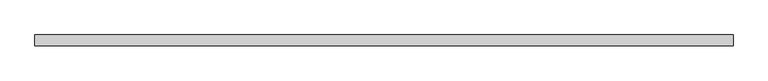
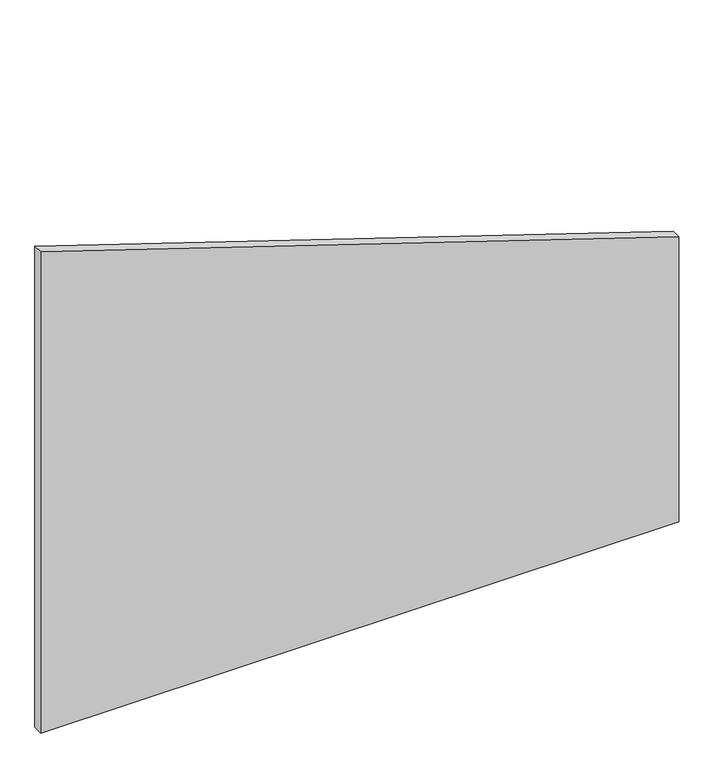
"""IFC4 building model written with IfcOpenShell, lengths in millimetres: plate geometry, Системная панель : ADSK_Cтеклопакет_25 мм."""

from ifc_helpers import new_model, si_unit, frame, origin, place, context, project, spatial, polyline, outline, extrude, source, transform, mapped, element, save


def plate_d46d3da3(model_context):
    return source(origin(), model_context, "Body", "SweptSolid", [
        extrude(outline(polyline([(0.0, -812.4684619), (0.0, 812.4684619), (767.3403965, 812.4684619), (1295.3144081, -812.4684619), (0.0, -812.4684619)])), frame((0.0, -12.5, 0.0), z_axis=(0.0, 1.0, 0.0), x_axis=(0.0, 0.0, 1.0)), (0.0, 0.0, 1.0), 25.0),
    ])


if __name__ == "__main__":
    model = new_model("IFC4")
    model_context = context("Model", 3, world=origin())
    ifc_project = project(units=[si_unit("LENGTHUNIT", "METRE", prefix="MILLI")], contexts=[model_context])
    site = spatial("IfcSite", under=ifc_project)
    building = spatial("IfcBuilding", under=site)
    placement = place(None, origin())
    plate_shape = plate_d46d3da3(model_context)
    element("IfcPlate", 1, ObjectType="Системная панель : ADSK_Cтеклопакет_25 мм", at=placement, inside=building, context=model_context, shape_type="MappedRepresentation", body=[
        mapped(plate_shape, transform((0.0, 0.0, 0.0), x_axis=(1.0, 0.0, 0.0), y_axis=(0.0, 1.0, 0.0), z_axis=(0.0, 0.0, 1.0))),
    ])
    save(model, "model.ifc")
